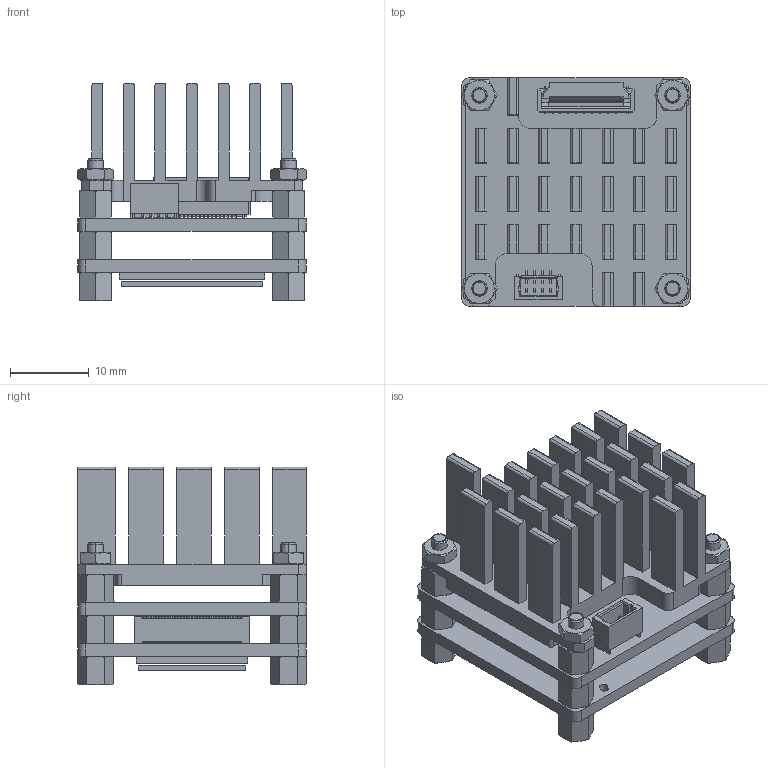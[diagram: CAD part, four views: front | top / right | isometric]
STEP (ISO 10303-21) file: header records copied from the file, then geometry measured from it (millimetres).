
FILE_DESCRIPTION((''),'2;1');
FILE_NAME('MV-CB050-60UM-B','2025-07-08T15:49:15',('zhangqianwen8'),(''),'CREO PARAMETRIC BY PTC INC, 2020044','CREO PARAMETRIC BY PTC INC, 2020044','');
FILE_SCHEMA(('CONFIG_CONTROL_DESIGN'));
Products named in the file (1): MV-CB050-60UM-B
Bounding box: 29.01 x 29.12 x 27.6 mm (x, y, z)
Volume: 5233.8 mm3; surface area: 13135.9 mm2
Topology: 5 solids, 52 shells, 7584 faces, 22865 edges, 15363 vertices
Faces by surface type: plane 4971, cylinder 2333, bspline 148, cone 116, torus 16
Entity records: 264034 total; most frequent: CARTESIAN_POINT 55362, ORIENTED_EDGE 45075, DIRECTION 42240, EDGE_CURVE 22841, VECTOR 16324, LINE 16324, VERTEX_POINT 15363, AXIS2_PLACEMENT_3D 12958
